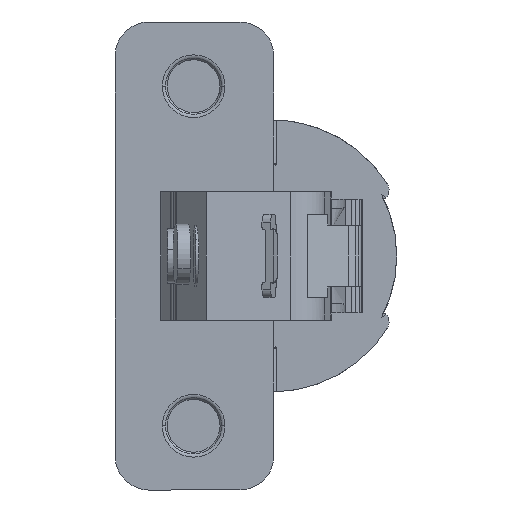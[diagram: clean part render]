
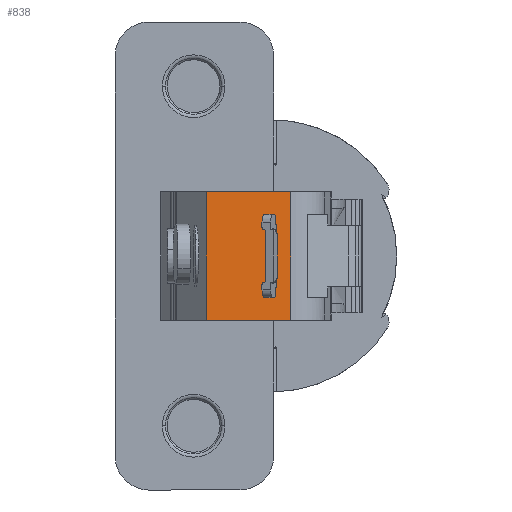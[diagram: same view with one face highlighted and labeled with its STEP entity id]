
A CAD part, left-side view. The second image highlights one B-rep face of the part: STEP entity #838.
In plain terms, the highlighted planar face has unit normal (-0.997, -0.081, 0).
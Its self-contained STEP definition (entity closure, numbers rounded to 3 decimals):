
#6 = DIRECTION ( 'NONE',  ( 0.081, -0.997, 0. ) ) ;
#185 = DIRECTION ( 'NONE',  ( 0.997, 0.081, 0. ) ) ;
#418 = EDGE_CURVE ( 'NONE', #7374, #788, #2557, .T. ) ;
#526 = LINE ( 'NONE', #1246, #3467 ) ;
#788 = VERTEX_POINT ( 'NONE', #1907 ) ;
#838 = ADVANCED_FACE ( 'NONE', ( #4356, #3670 ), #5773, .F. ) ;
#865 = DIRECTION ( 'NONE',  ( 0., 0., -1. ) ) ;
#949 = VECTOR ( 'NONE', #6, 1000. ) ;
#1039 = VERTEX_POINT ( 'NONE', #6804 ) ;
#1043 = CARTESIAN_POINT ( 'NONE',  ( -78.577, 18.348, -85.824 ) ) ;
#1085 = DIRECTION ( 'NONE',  ( 0., 0., 1. ) ) ;
#1173 = DIRECTION ( 'NONE',  ( -0.081, 0.997, 0. ) ) ;
#1246 = CARTESIAN_POINT ( 'NONE',  ( -79.33, 27.627, 9.467 ) ) ;
#1323 = EDGE_CURVE ( 'NONE', #1560, #3593, #526, .T. ) ;
#1454 = VECTOR ( 'NONE', #5454, 1000. ) ;
#1560 = VERTEX_POINT ( 'NONE', #7057 ) ;
#1574 = EDGE_CURVE ( 'NONE', #788, #1560, #8774, .T. ) ;
#1820 = CARTESIAN_POINT ( 'NONE',  ( -79.413, 28.65, -7.533 ) ) ;
#1907 = CARTESIAN_POINT ( 'NONE',  ( -78.423, 16.443, -7.533 ) ) ;
#2025 = EDGE_CURVE ( 'NONE', #7374, #3593, #7904, .T. ) ;
#2053 = ORIENTED_EDGE ( 'NONE', *, *, #3478, .F. ) ;
#2224 = EDGE_LOOP ( 'NONE', ( #5404, #4186, #6935, #4231 ) ) ;
#2450 = DIRECTION ( 'NONE',  ( -0.081, 0.997, 0. ) ) ;
#2557 = LINE ( 'NONE', #8880, #4977 ) ;
#2740 = CARTESIAN_POINT ( 'NONE',  ( -79.209, 26.131, -3.133 ) ) ;
#2899 = CARTESIAN_POINT ( 'NONE',  ( -78.36, 15.673, -19.533 ) ) ;
#3159 = EDGE_CURVE ( 'NONE', #1039, #3979, #8548, .T. ) ;
#3354 = EDGE_CURVE ( 'NONE', #1039, #6470, #8087, .T. ) ;
#3467 = VECTOR ( 'NONE', #3712, 1000. ) ;
#3478 = EDGE_CURVE ( 'NONE', #5778, #3979, #8174, .T. ) ;
#3495 = CARTESIAN_POINT ( 'NONE',  ( -78.423, 16.443, 9.467 ) ) ;
#3593 = VERTEX_POINT ( 'NONE', #8404 ) ;
#3670 = FACE_OUTER_BOUND ( 'NONE', #2224, .T. ) ;
#3712 = DIRECTION ( 'NONE',  ( 0., 0., 1. ) ) ;
#3880 = CARTESIAN_POINT ( 'NONE',  ( -78.577, 18.348, 5.067 ) ) ;
#3979 = VERTEX_POINT ( 'NONE', #6259 ) ;
#4186 = ORIENTED_EDGE ( 'NONE', *, *, #1574, .F. ) ;
#4231 = ORIENTED_EDGE ( 'NONE', *, *, #2025, .T. ) ;
#4356 = FACE_BOUND ( 'NONE', #4829, .T. ) ;
#4372 = ORIENTED_EDGE ( 'NONE', *, *, #3354, .F. ) ;
#4829 = EDGE_LOOP ( 'NONE', ( #2053, #5744, #4372, #7420 ) ) ;
#4971 = AXIS2_PLACEMENT_3D ( 'NONE', #2899, #185, #865 ) ;
#4977 = VECTOR ( 'NONE', #5295, 1000. ) ;
#5082 = VECTOR ( 'NONE', #1085, 1000. ) ;
#5295 = DIRECTION ( 'NONE',  ( 0., 0., -1. ) ) ;
#5404 = ORIENTED_EDGE ( 'NONE', *, *, #1323, .F. ) ;
#5454 = DIRECTION ( 'NONE',  ( 0., 0., -1. ) ) ;
#5547 = CARTESIAN_POINT ( 'NONE',  ( -79.209, 26.131, 5.067 ) ) ;
#5744 = ORIENTED_EDGE ( 'NONE', *, *, #7355, .T. ) ;
#5773 = PLANE ( 'NONE',  #4971 ) ;
#5778 = VERTEX_POINT ( 'NONE', #6227 ) ;
#6220 = LINE ( 'NONE', #5547, #949 ) ;
#6227 = CARTESIAN_POINT ( 'NONE',  ( -78.675, 19.547, 5.067 ) ) ;
#6259 = CARTESIAN_POINT ( 'NONE',  ( -78.675, 19.547, -3.133 ) ) ;
#6470 = VERTEX_POINT ( 'NONE', #3880 ) ;
#6744 = VECTOR ( 'NONE', #1173, 1000. ) ;
#6804 = CARTESIAN_POINT ( 'NONE',  ( -78.577, 18.348, -3.133 ) ) ;
#6856 = CARTESIAN_POINT ( 'NONE',  ( -78.675, 19.547, -85.824 ) ) ;
#6925 = DIRECTION ( 'NONE',  ( -0.081, 0.997, 0. ) ) ;
#6935 = ORIENTED_EDGE ( 'NONE', *, *, #418, .F. ) ;
#7057 = CARTESIAN_POINT ( 'NONE',  ( -79.33, 27.627, -7.533 ) ) ;
#7355 = EDGE_CURVE ( 'NONE', #5778, #6470, #6220, .T. ) ;
#7374 = VERTEX_POINT ( 'NONE', #3495 ) ;
#7420 = ORIENTED_EDGE ( 'NONE', *, *, #3159, .T. ) ;
#7904 = LINE ( 'NONE', #7997, #6744 ) ;
#7921 = VECTOR ( 'NONE', #2450, 1000. ) ;
#7997 = CARTESIAN_POINT ( 'NONE',  ( -78.36, 15.673, 9.467 ) ) ;
#8087 = LINE ( 'NONE', #1043, #5082 ) ;
#8174 = LINE ( 'NONE', #6856, #1454 ) ;
#8404 = CARTESIAN_POINT ( 'NONE',  ( -79.33, 27.627, 9.467 ) ) ;
#8548 = LINE ( 'NONE', #2740, #8706 ) ;
#8706 = VECTOR ( 'NONE', #6925, 1000. ) ;
#8774 = LINE ( 'NONE', #1820, #7921 ) ;
#8880 = CARTESIAN_POINT ( 'NONE',  ( -78.423, 16.443, -23.533 ) ) ;
